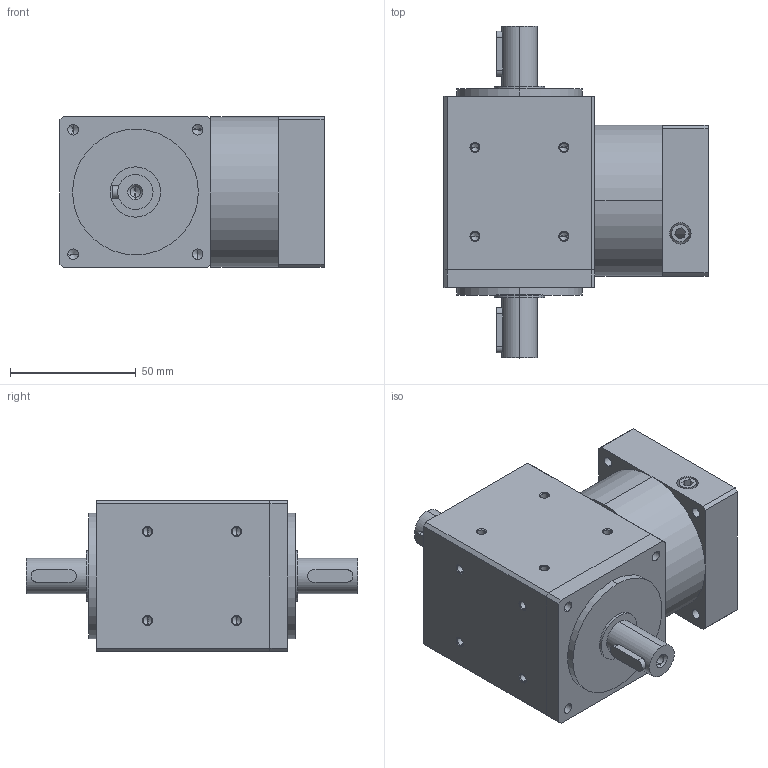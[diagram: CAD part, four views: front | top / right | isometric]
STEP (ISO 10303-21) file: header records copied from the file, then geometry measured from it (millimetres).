
FILE_DESCRIPTION (( 'STEP AP203' ), '1' );
FILE_NAME ('RLBS-060.STEP', '2010-05-27T18:53:42', ( 'render' ), ( '' ), 'SwSTEP 2.0', 'SolidWorks 2009', '' );
FILE_SCHEMA (( 'CONFIG_CONTROL_DESIGN' ));
Length unit declared in the file: millimetre
Products named in the file (1): RLBS-060
Bounding box: 105 x 132 x 60 mm (x, y, z)
Volume: 409544 mm3; surface area: 61764.1 mm2
Topology: 4 solids, 4 shells, 227 faces, 540 edges, 312 vertices
Faces by surface type: cylinder 105, cone 72, plane 50
Entity records: 6538 total; most frequent: CARTESIAN_POINT 1239, DIRECTION 1180, ORIENTED_EDGE 992, EDGE_CURVE 496, AXIS2_PLACEMENT_3D 462, VERTEX_POINT 312, EDGE_LOOP 282, LINE 256
